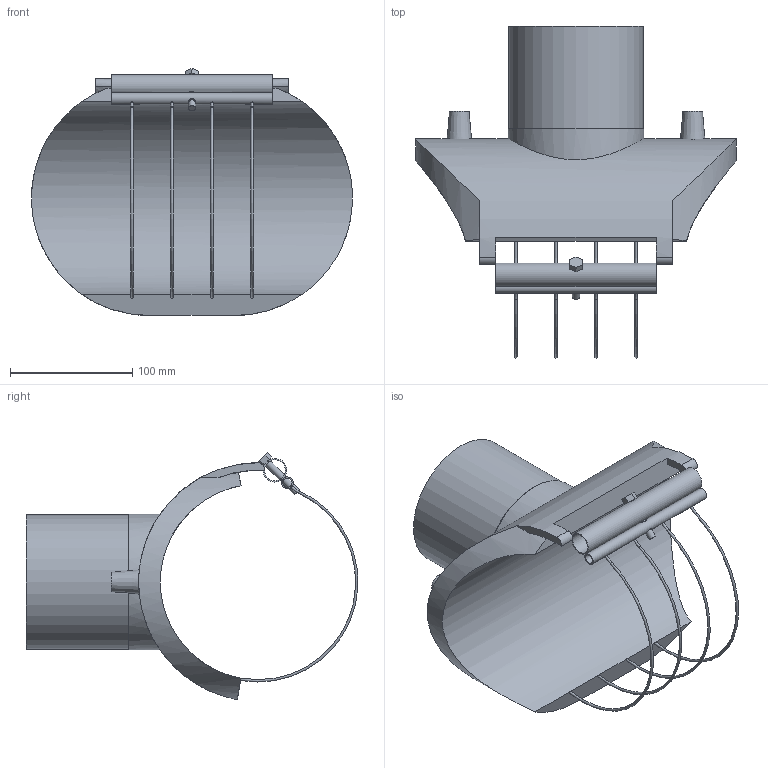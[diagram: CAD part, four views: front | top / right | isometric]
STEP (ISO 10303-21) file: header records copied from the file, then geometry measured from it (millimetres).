
FILE_DESCRIPTION(/* description */ ('Plasson Branch Saddle 160x110'),/* implementation_level */ '2;1');
FILE_NAME(/* name */ 'C:\Dropbox\KIMPROJECTS-Inventor 2019\99-16-3568-Processing\ElectroFusion Fittings\4958X4\4958X4160110T.stp',/* time_stamp */ '2025-05-07T12:15:14+03:00',/* author */ ('KIM'),/* organization */ (''),/* preprocessor_version */ 'ST-DEVELOPER v18.1',/* originating_system */ 'Autodesk Inventor 2021',/* authorisation */ '');
FILE_SCHEMA (('AUTOMOTIVE_DESIGN { 1 0 10303 214 3 1 1 }'));
Length unit declared in the file: millimetre
Products named in the file (1): 4958X4160110T
Bounding box: 263 x 271.91 x 202.26 mm (x, y, z)
Volume: 1325509.9 mm3; surface area: 225121.3 mm2
Topology: 1 solids, 1 shells, 63 faces, 178 edges, 115 vertices
Faces by surface type: cylinder 28, plane 25, torus 8, cone 2
Full cylindrical faces by diameter (mm): 6 x3, 7.6 x1, 8 x1, 16 x1, 17.2 x1, 89 x1, 110 x1, 111 x1
Entity records: 2937 total; most frequent: CARTESIAN_POINT 1242, ORIENTED_EDGE 360, DIRECTION 331, EDGE_CURVE 180, AXIS2_PLACEMENT_3D 135, VERTEX_POINT 115, EDGE_LOOP 81, CIRCLE 67
